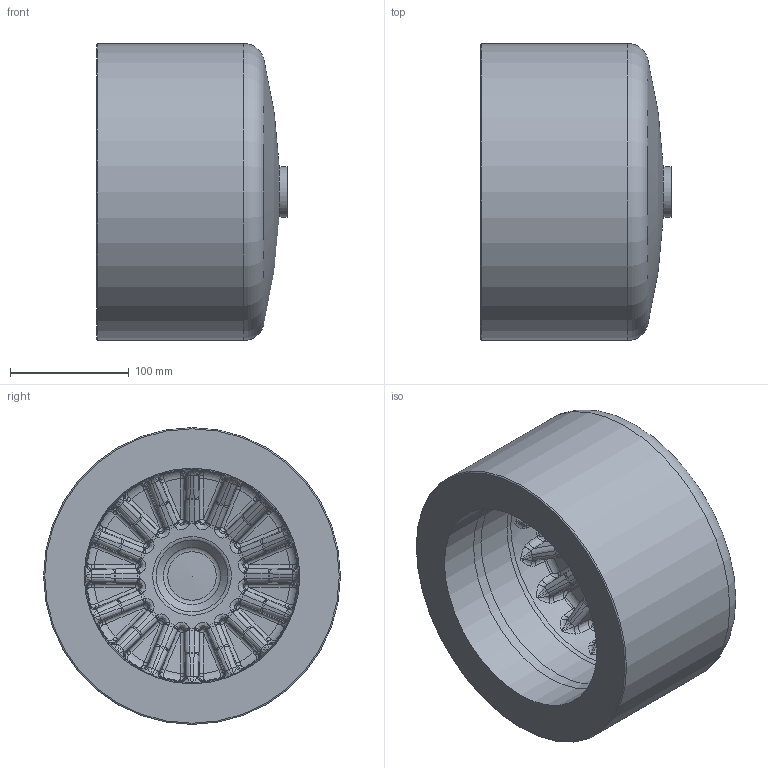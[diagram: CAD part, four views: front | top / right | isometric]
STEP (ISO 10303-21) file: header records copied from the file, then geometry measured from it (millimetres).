
FILE_DESCRIPTION(/* description */ ('Unknown'),/* implementation_level */ '2;1');
FILE_NAME(/* name */ 'CAP250H',/* time_stamp */ '2022-04-01T15:54:25+02:00',/* author */ ('Unknown'),/* organization */ ('Unknown'),/* preprocessor_version */ 'ST-DEVELOPER v18.1',/* originating_system */ 'Solid Edge',/* authorisation */ 'Unknown');
FILE_SCHEMA (('AUTOMOTIVE_DESIGN {1 0 10303 214 3 1 1}'));
Length unit declared in the file: millimetre
Products named in the file (1): CAP250H
Bounding box: 160.6 x 250 x 250 mm (x, y, z)
Volume: 4356632.6 mm3; surface area: 276137.1 mm2
Topology: 1 solids, 1 shells, 611 faces, 1434 edges, 777 vertices
Faces by surface type: bspline 368, torus 119, cone 38, plane 34, sphere 34, cylinder 18
Full cylindrical faces by diameter (mm): 181.6 x1, 250 x1
Entity records: 21326 total; most frequent: CARTESIAN_POINT 10199, ORIENTED_EDGE 2722, DIRECTION 1834, EDGE_CURVE 1361, AXIS2_PLACEMENT_3D 901, VERTEX_POINT 770, B_SPLINE_CURVE_WITH_KNOTS 672, FACE_BOUND 629
